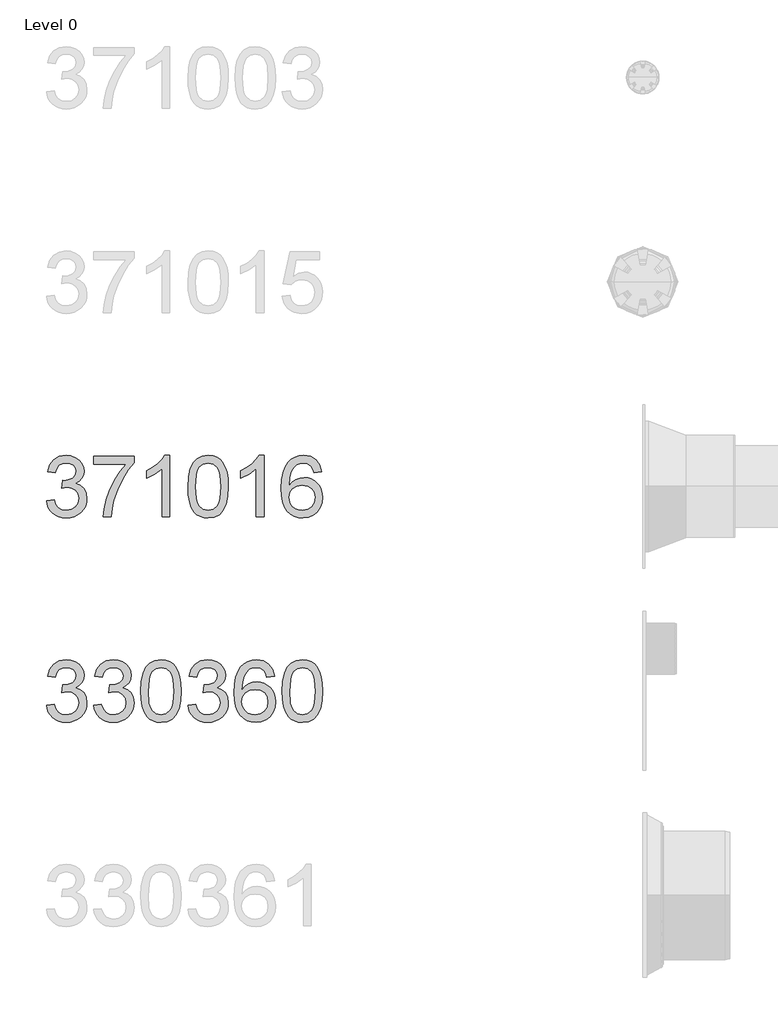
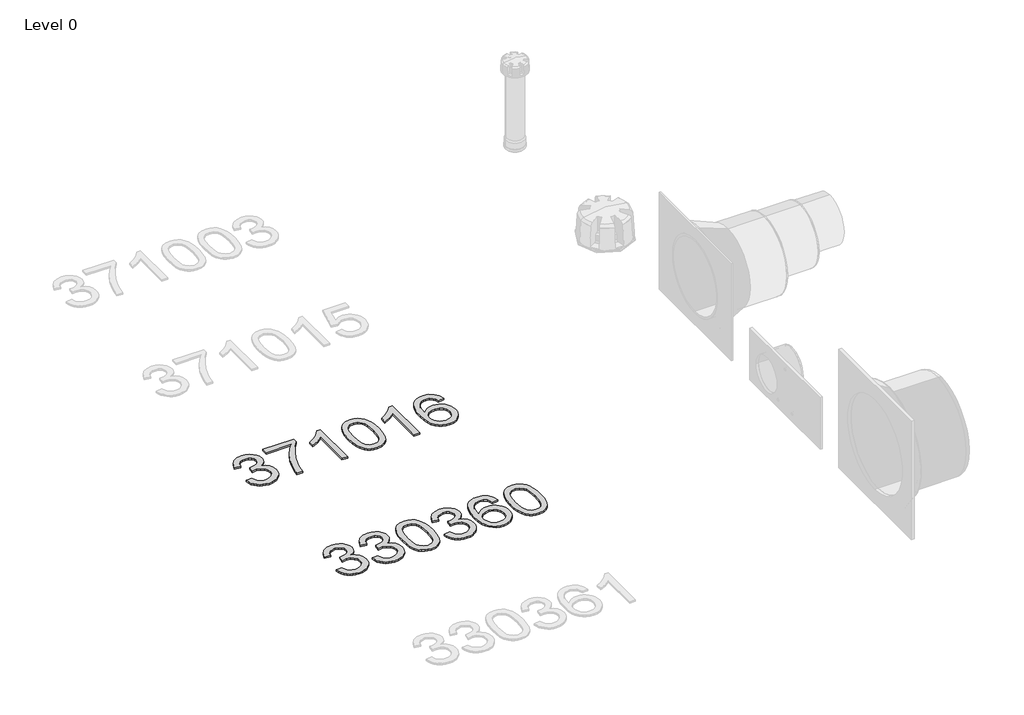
# One storey, part 4 of 25: 2 proxies.
"""IFC4 building model written with IfcOpenShell, lengths in millimetres."""

from ifc_helpers import new_model, si_unit, origin, origin_with_axes, place, context, project, spatial, polyline, outline, extrude, element, save

model = new_model("IFC4")

# Units and contexts
model_context = context("Model", 3, world=origin())
ifc_project = project(units=[si_unit("LENGTHUNIT", "METRE", prefix="MILLI")], contexts=[model_context])

# Site, building, storey
site = spatial("IfcSite", under=ifc_project)
building = spatial("IfcBuilding", under=site)
storey = spatial("IfcBuildingStorey", under=building, Name="Level 0", Elevation=0.0)

# Proxies
placement = place(None, origin())
element("IfcBuildingElementProxy", 1, Name="300mm Arial", ObjectType="300mm Arial", at=placement, inside=storey, context=model_context, shape_type="SweptSolid", body=[
    extrude(outline(polyline([(-3192.0538732, -8120.925676), (-3154.3827568, -8116.2167865), (-3145.9490621, -8139.8899929), (-3133.5974241, -8155.8744656), (-3116.7208376, -8164.979545), (-3094.7122972, -8168.0145714), (-3068.8869812, -8163.8391108), (-3048.947777, -8151.3127288), (-3036.2006659, -8132.6243235), (-3031.9516289, -8109.9627926), (-3036.1638777, -8088.4508929), (-3048.8006242, -8071.0040893), (-3067.930488, -8059.4433976), (-3091.6220885, -8055.5898337), (-3118.0360157, -8059.710112), (-3113.842161, -8022.0389957), (-3107.8088963, -8022.4804541), (-3085.2393359, -8019.7765215), (-3065.0610084, -8011.6647235), (-3050.8239752, -7997.942725), (-3046.0782975, -7978.4081911), (-3049.5179941, -7962.1386099), (-3059.8370841, -7948.9408433), (-3075.5824335, -7940.1944488), (-3095.3009084, -7937.278984), (-3115.0561716, -7940.22204), (-3131.2061912, -7949.0512079), (-3142.9968091, -7963.7664877), (-3149.6738673, -7984.3678794), (-3187.3449836, -7979.6589899), (-3176.2533415, -7945.8322404), (-3156.5164724, -7920.5771415), (-3129.513934, -7904.8501862), (-3096.6252836, -7899.6078677), (-3072.9428802, -7902.1922387), (-3051.1918572, -7909.9453518), (-3032.8529397, -7922.1774281), (-3019.4068528, -7938.198689), (-3011.1570991, -7956.6571681), (-3008.4071812, -7976.2008991), (-3011.0191433, -7994.4110579), (-3018.8550298, -8010.9289595), (-3031.8044761, -8025.0004458), (-3049.7571174, -8035.8713587), (-3026.1758815, -8045.3995024), (-3008.7014868, -8061.6230984), (-2997.8857561, -8083.6592299), (-2994.2805125, -8110.6249802), (-2996.0831343, -8129.7364498), (-3001.4909997, -8147.3396033), (-3010.5041085, -8163.4344406), (-3023.122461, -8178.0209617), (-3038.4953298, -8190.1242793), (-3055.771988, -8198.7695062), (-3074.9524356, -8203.9566423), (-3096.0366724, -8205.6856877), (-3115.0929598, -8204.2095612), (-3132.4569899, -8199.7811817), (-3148.1287629, -8192.4005492), (-3162.1082787, -8182.0676636), (-3173.8299188, -8169.3895304), (-3182.7280646, -8154.9731547), (-3188.802716, -8138.8185366), (-3192.0538732, -8120.925676)])), origin_with_axes(), (0.0, 0.0, 1.0), 10.0),
    extrude(outline(polyline([(-2961.3182858, -7941.9878736), (-2961.3182858, -7904.3167573), (-2763.5449252, -7904.3167573), (-2763.5449252, -7934.7773865), (-2791.7338831, -7970.452743), (-2819.6469294, -8015.82179), (-2844.267432, -8066.7458552), (-2862.5787583, -8119.0862661), (-2871.555079, -8158.2473044), (-2876.5582741, -8200.9767982), (-2914.2293904, -8200.9767982), (-2910.1550973, -8162.1468536), (-2899.2565932, -8115.9960573), (-2881.8281837, -8067.076949), (-2858.1641743, -8019.9420684), (-2830.5362365, -7977.3321363), (-2801.2160415, -7941.9878736), (-2961.3182858, -7941.9878736)])), origin_with_axes(), (0.0, 0.0, 1.0), 10.0),
    extrude(outline(polyline([(-2589.3160123, -8200.9767982), (-2626.9871286, -8200.9767982), (-2626.9871286, -7966.1209325), (-2662.6716821, -7991.5415783), (-2702.3293612, -8010.5610775), (-2702.3293612, -7974.9501003), (-2672.7424517, -7958.8552631), (-2647.1102737, -7939.7070052), (-2626.9043551, -7919.3447368), (-2613.5962239, -7899.6078677), (-2589.3160123, -7899.6078677), (-2589.3160123, -8200.9767982)])), origin_with_axes(), (0.0, 0.0, 1.0), 10.0),
    extrude(outline(polyline([(-2499.847111, -8052.7203541), (-2497.078799, -8004.4818275), (-2488.773863, -7966.0105679), (-2475.0150764, -7936.717964), (-2455.8852126, -7916.0154047), (-2431.246316, -7903.709752), (-2400.9604307, -7899.6078677), (-2377.7470768, -7902.0358889), (-2356.9617441, -7909.3199524), (-2339.5793198, -7921.1749497), (-2326.5746913, -7937.3157722), (-2316.752242, -7957.6044643), (-2308.9163555, -7981.9030701), (-2303.7844017, -8012.7591724), (-2302.0737504, -8052.7203541), (-2304.8144713, -8100.6829692), (-2313.0366339, -8139.0622584), (-2326.7126471, -8168.3824534), (-2345.8149197, -8189.1677861), (-2370.5089986, -8201.5562123), (-2400.9604307, -8205.6856877), (-2421.7089753, -8203.892263), (-2440.103075, -8198.5119888), (-2456.14273, -8189.5448652), (-2469.8279402, -8176.9908921), (-2482.9613275, -8154.2971715), (-2492.3423183, -8126.0208417), (-2497.9709129, -8092.1619025), (-2499.847111, -8052.7203541)]), holes=[polyline([(-2462.1759947, -8052.6467777), (-2457.7614108, -8111.9033701), (-2452.2431809, -8132.1713688), (-2444.517659, -8146.1991691), (-2424.799184, -8162.5607208), (-2400.9604307, -8168.0145714), (-2377.1216774, -8162.5423267), (-2357.4032025, -8146.1255927), (-2349.6776806, -8132.0747997), (-2344.1594507, -8111.8113996), (-2339.7448667, -8052.6467777), (-2344.0122979, -7994.7237576), (-2349.3465868, -7974.5224375), (-2356.8145913, -7960.1612441), (-2376.496278, -7942.9995491), (-2401.4018891, -7937.278984), (-2424.983125, -7942.3189674), (-2443.9290478, -7957.4389174), (-2451.9120871, -7973.0739022), (-2457.614258, -7994.1535405), (-2462.1759947, -8052.6467777)])]), origin_with_axes(), (0.0, 0.0, 1.0), 10.0),
    extrude(outline(polyline([(-2127.8448375, -8200.9767982), (-2165.5159538, -8200.9767982), (-2165.5159538, -7966.1209325), (-2201.2005073, -7991.5415783), (-2240.8581864, -8010.5610775), (-2240.8581864, -7974.9501003), (-2211.271277, -7958.8552631), (-2185.639099, -7939.7070052), (-2165.4331804, -7919.3447368), (-2152.1250492, -7899.6078677), (-2127.8448375, -7899.6078677), (-2127.8448375, -8200.9767982)])), origin_with_axes(), (0.0, 0.0, 1.0), 10.0),
    extrude(outline(polyline([(-1845.3114652, -7979.6589899), (-1882.9825815, -7984.3678794), (-1889.0526344, -7965.6978682), (-1897.2564029, -7952.950757), (-1914.3445216, -7941.1969273), (-1935.0010956, -7937.278984), (-1952.5122786, -7939.5598524), (-1968.993392, -7946.4024575), (-1983.1476518, -7960.8142347), (-1994.7083435, -7980.6522713), (-2002.5166388, -8008.7124704), (-2005.4137095, -8047.7907354), (-1990.3029566, -8030.1599908), (-1972.1939653, -8017.7347764), (-1952.0984114, -8010.3679394), (-1931.0279701, -8007.9123271), (-1912.9281759, -8009.5907887), (-1896.2263333, -8014.6261735), (-1880.9224423, -8023.0184815), (-1867.0165029, -8034.7677128), (-1855.4604098, -8049.1748914), (-1847.2060575, -8065.5410417), (-1842.2534461, -8083.8661635), (-1840.6025757, -8104.150257), (-1843.7111785, -8131.1252043), (-1853.0369871, -8156.131983), (-1867.8074492, -8177.34038), (-1887.2500127, -8192.9201825), (-1910.4817607, -8202.4943114), (-1936.6197764, -8205.6856877), (-1959.076673, -8203.5703662), (-1979.3584672, -8197.2244018), (-1997.4651592, -8186.6477945), (-2013.3967488, -8171.8405442), (-2026.3852825, -8152.1772515), (-2035.6628066, -8127.0325171), (-2041.229321, -8096.406341), (-2043.0848258, -8060.2987232), (-2041.0246866, -8019.8179082), (-2034.8442691, -7985.2691903), (-2024.5435733, -7956.6525696), (-2010.1225991, -7933.9680461), (-1994.4922128, -7918.9354681), (-1976.369426, -7908.1979123), (-1955.7542387, -7901.7553789), (-1932.6466509, -7899.6078677), (-1899.5924536, -7904.9237626), (-1873.123344, -7920.8714471), (-1854.5820915, -7946.2001224), (-1845.3114652, -7979.6589899)]), holes=[polyline([(-2005.4137095, -8103.5616459), (-2003.2340087, -8120.2542914), (-1996.6949062, -8136.1927788), (-1986.5413632, -8149.8963831), (-1973.5183405, -8159.8843793), (-1957.8005823, -8165.9820234), (-1939.5628324, -8168.0145714), (-1914.7032066, -8163.8023226), (-1895.1594756, -8151.165576), (-1882.4951379, -8131.2999483), (-1878.273692, -8105.4010558), (-1882.4399556, -8080.54143), (-1894.9387464, -8061.5863102), (-1914.8135712, -8049.5841601), (-1941.1079368, -8045.5834434), (-1965.9307744, -8049.5841601), (-1986.688516, -8061.5863102), (-2000.7324111, -8080.0815775), (-2005.4137095, -8103.5616459)])]), origin_with_axes(), (0.0, 0.0, 1.0), 10.0),
])
element("IfcBuildingElementProxy", 2, Name="300mm Arial", ObjectType="300mm Arial", at=placement, inside=storey, context=model_context, shape_type="SweptSolid", body=[
    extrude(outline(polyline([(-3192.0538732, -9120.925676), (-3154.3827568, -9116.2167865), (-3145.9490621, -9139.8899929), (-3133.5974241, -9155.8744656), (-3116.7208376, -9164.979545), (-3094.7122972, -9168.0145714), (-3068.8869812, -9163.8391108), (-3048.947777, -9151.3127288), (-3036.2006659, -9132.6243235), (-3031.9516289, -9109.9627926), (-3036.1638777, -9088.4508929), (-3048.8006242, -9071.0040893), (-3067.930488, -9059.4433976), (-3091.6220885, -9055.5898337), (-3118.0360157, -9059.710112), (-3113.842161, -9022.0389957), (-3107.8088963, -9022.4804541), (-3085.2393359, -9019.7765215), (-3065.0610084, -9011.6647235), (-3050.8239752, -8997.942725), (-3046.0782975, -8978.4081911), (-3049.5179941, -8962.1386099), (-3059.8370841, -8948.9408433), (-3075.5824335, -8940.1944488), (-3095.3009084, -8937.278984), (-3115.0561716, -8940.22204), (-3131.2061912, -8949.0512079), (-3142.9968091, -8963.7664877), (-3149.6738673, -8984.3678794), (-3187.3449836, -8979.6589899), (-3176.2533415, -8945.8322404), (-3156.5164724, -8920.5771415), (-3129.513934, -8904.8501862), (-3096.6252836, -8899.6078677), (-3072.9428802, -8902.1922387), (-3051.1918572, -8909.9453518), (-3032.8529397, -8922.1774281), (-3019.4068528, -8938.198689), (-3011.1570991, -8956.6571681), (-3008.4071812, -8976.2008991), (-3011.0191433, -8994.4110579), (-3018.8550298, -9010.9289595), (-3031.8044761, -9025.0004458), (-3049.7571174, -9035.8713587), (-3026.1758815, -9045.3995024), (-3008.7014868, -9061.6230984), (-2997.8857561, -9083.6592299), (-2994.2805125, -9110.6249802), (-2996.0831343, -9129.7364498), (-3001.4909997, -9147.3396033), (-3010.5041085, -9163.4344406), (-3023.122461, -9178.0209617), (-3038.4953298, -9190.1242793), (-3055.771988, -9198.7695062), (-3074.9524356, -9203.9566423), (-3096.0366724, -9205.6856877), (-3115.0929598, -9204.2095612), (-3132.4569899, -9199.7811817), (-3148.1287629, -9192.4005492), (-3162.1082787, -9182.0676636), (-3173.8299188, -9169.3895304), (-3182.7280646, -9154.9731547), (-3188.802716, -9138.8185366), (-3192.0538732, -9120.925676)])), origin_with_axes(), (0.0, 0.0, 1.0), 10.0),
    extrude(outline(polyline([(-2961.3182858, -9120.925676), (-2923.6471695, -9116.2167865), (-2915.2134747, -9139.8899929), (-2902.8618367, -9155.8744656), (-2885.9852502, -9164.979545), (-2863.9767099, -9168.0145714), (-2838.1513938, -9163.8391108), (-2818.2121897, -9151.3127288), (-2805.4650785, -9132.6243235), (-2801.2160415, -9109.9627926), (-2805.4282903, -9088.4508929), (-2818.0650369, -9071.0040893), (-2837.1949006, -9059.4433976), (-2860.8865011, -9055.5898337), (-2887.3004284, -9059.710112), (-2883.1065736, -9022.0389957), (-2877.0733089, -9022.4804541), (-2854.5037485, -9019.7765215), (-2834.325421, -9011.6647235), (-2820.0883878, -8997.942725), (-2815.3427101, -8978.4081911), (-2818.7824067, -8962.1386099), (-2829.1014967, -8948.9408433), (-2844.8468461, -8940.1944488), (-2864.565321, -8937.278984), (-2884.3205842, -8940.22204), (-2900.4706038, -8949.0512079), (-2912.2612217, -8963.7664877), (-2918.9382799, -8984.3678794), (-2956.6093962, -8979.6589899), (-2945.5177541, -8945.8322404), (-2925.780885, -8920.5771415), (-2898.7783466, -8904.8501862), (-2865.8896962, -8899.6078677), (-2842.2072928, -8902.1922387), (-2820.4562698, -8909.9453518), (-2802.1173524, -8922.1774281), (-2788.6712654, -8938.198689), (-2780.4215117, -8956.6571681), (-2777.6715938, -8976.2008991), (-2780.283556, -8994.4110579), (-2788.1194425, -9010.9289595), (-2801.0688887, -9025.0004458), (-2819.02153, -9035.8713587), (-2795.4402942, -9045.3995024), (-2777.9658994, -9061.6230984), (-2767.1501687, -9083.6592299), (-2763.5449252, -9110.6249802), (-2765.3475469, -9129.7364498), (-2770.7554123, -9147.3396033), (-2779.7685212, -9163.4344406), (-2792.3868736, -9178.0209617), (-2807.7597425, -9190.1242793), (-2825.0364007, -9198.7695062), (-2844.2168482, -9203.9566423), (-2865.301085, -9205.6856877), (-2884.3573724, -9204.2095612), (-2901.7214026, -9199.7811817), (-2917.3931756, -9192.4005492), (-2931.3726914, -9182.0676636), (-2943.0943314, -9169.3895304), (-2951.9924772, -9154.9731547), (-2958.0671286, -9138.8185366), (-2961.3182858, -9120.925676)])), origin_with_axes(), (0.0, 0.0, 1.0), 10.0),
    extrude(outline(polyline([(-2730.5826984, -9052.7203541), (-2727.8143864, -9004.4818275), (-2719.5094504, -8966.0105679), (-2705.7506637, -8936.717964), (-2686.6208, -8916.0154047), (-2661.9819034, -8903.709752), (-2631.6960181, -8899.6078677), (-2608.4826642, -8902.0358889), (-2587.6973315, -8909.3199524), (-2570.3149072, -8921.1749497), (-2557.3102787, -8937.3157722), (-2547.4878294, -8957.6044643), (-2539.6519429, -8981.9030701), (-2534.5199891, -9012.7591724), (-2532.8093378, -9052.7203541), (-2535.5500587, -9100.6829692), (-2543.7722213, -9139.0622584), (-2557.4482344, -9168.3824534), (-2576.550507, -9189.1677861), (-2601.244586, -9201.5562123), (-2631.6960181, -9205.6856877), (-2652.4445626, -9203.892263), (-2670.8386624, -9198.5119888), (-2686.8783174, -9189.5448652), (-2700.5635276, -9176.9908921), (-2713.6969148, -9154.2971715), (-2723.0779057, -9126.0208417), (-2728.7065002, -9092.1619025), (-2730.5826984, -9052.7203541)]), holes=[polyline([(-2692.9115821, -9052.6467777), (-2688.4969982, -9111.9033701), (-2682.9787682, -9132.1713688), (-2675.2532463, -9146.1991691), (-2655.5347714, -9162.5607208), (-2631.6960181, -9168.0145714), (-2607.8572648, -9162.5423267), (-2588.1387899, -9146.1255927), (-2580.413268, -9132.0747997), (-2574.895038, -9111.8113996), (-2570.4804541, -9052.6467777), (-2574.7478852, -8994.7237576), (-2580.0821742, -8974.5224375), (-2587.5501787, -8960.1612441), (-2607.2318654, -8942.9995491), (-2632.1374765, -8937.278984), (-2655.7187124, -8942.3189674), (-2674.6646351, -8957.4389174), (-2682.6476744, -8973.0739022), (-2688.3498454, -8994.1535405), (-2692.9115821, -9052.6467777)])]), origin_with_axes(), (0.0, 0.0, 1.0), 10.0),
    extrude(outline(polyline([(-2499.847111, -9120.925676), (-2462.1759947, -9116.2167865), (-2453.7423, -9139.8899929), (-2441.390662, -9155.8744656), (-2424.5140755, -9164.979545), (-2402.5055351, -9168.0145714), (-2376.680219, -9163.8391108), (-2356.7410149, -9151.3127288), (-2343.9939038, -9132.6243235), (-2339.7448667, -9109.9627926), (-2343.9571156, -9088.4508929), (-2356.5938621, -9071.0040893), (-2375.7237259, -9059.4433976), (-2399.4153263, -9055.5898337), (-2425.8292536, -9059.710112), (-2421.6353989, -9022.0389957), (-2415.6021341, -9022.4804541), (-2393.0325737, -9019.7765215), (-2372.8542463, -9011.6647235), (-2358.6172131, -8997.942725), (-2353.8715353, -8978.4081911), (-2357.311232, -8962.1386099), (-2367.630322, -8948.9408433), (-2383.3756714, -8940.1944488), (-2403.0941463, -8937.278984), (-2422.8494094, -8940.22204), (-2438.999429, -8949.0512079), (-2450.790047, -8963.7664877), (-2457.4671052, -8984.3678794), (-2495.1382215, -8979.6589899), (-2484.0465793, -8945.8322404), (-2464.3097103, -8920.5771415), (-2437.3071719, -8904.8501862), (-2404.4185215, -8899.6078677), (-2380.736118, -8902.1922387), (-2358.9850951, -8909.9453518), (-2340.6461776, -8922.1774281), (-2327.2000907, -8938.198689), (-2318.950337, -8956.6571681), (-2316.200419, -8976.2008991), (-2318.8123812, -8994.4110579), (-2326.6482677, -9010.9289595), (-2339.5977139, -9025.0004458), (-2357.5503553, -9035.8713587), (-2333.9691194, -9045.3995024), (-2316.4947246, -9061.6230984), (-2305.678994, -9083.6592299), (-2302.0737504, -9110.6249802), (-2303.8763722, -9129.7364498), (-2309.2842375, -9147.3396033), (-2318.2973464, -9163.4344406), (-2330.9156988, -9178.0209617), (-2346.2885677, -9190.1242793), (-2363.5652259, -9198.7695062), (-2382.7456734, -9203.9566423), (-2403.8299103, -9205.6856877), (-2422.8861976, -9204.2095612), (-2440.2502278, -9199.7811817), (-2455.9220008, -9192.4005492), (-2469.9015166, -9182.0676636), (-2481.6231567, -9169.3895304), (-2490.5213025, -9154.9731547), (-2496.5959539, -9138.8185366), (-2499.847111, -9120.925676)])), origin_with_axes(), (0.0, 0.0, 1.0), 10.0),
    extrude(outline(polyline([(-2076.0470526, -8979.6589899), (-2113.7181689, -8984.3678794), (-2119.7882218, -8965.6978682), (-2127.9919903, -8952.950757), (-2145.080109, -8941.1969273), (-2165.736683, -8937.278984), (-2183.247866, -8939.5598524), (-2199.7289794, -8946.4024575), (-2213.8832391, -8960.8142347), (-2225.4439308, -8980.6522713), (-2233.2522262, -9008.7124704), (-2236.1492969, -9047.7907354), (-2221.0385439, -9030.1599908), (-2202.9295527, -9017.7347764), (-2182.8339987, -9010.3679394), (-2161.7635575, -9007.9123271), (-2143.6637633, -9009.5907887), (-2126.9619207, -9014.6261735), (-2111.6580297, -9023.0184815), (-2097.7520903, -9034.7677128), (-2086.1959971, -9049.1748914), (-2077.9416449, -9065.5410417), (-2072.9890335, -9083.8661635), (-2071.338163, -9104.150257), (-2074.4467659, -9131.1252043), (-2083.7725745, -9156.131983), (-2098.5430366, -9177.34038), (-2117.9856, -9192.9201825), (-2141.217348, -9202.4943114), (-2167.3553638, -9205.6856877), (-2189.8122603, -9203.5703662), (-2210.0940546, -9197.2244018), (-2228.2007465, -9186.6477945), (-2244.1323362, -9171.8405442), (-2257.1208699, -9152.1772515), (-2266.3983939, -9127.0325171), (-2271.9649084, -9096.406341), (-2273.8204132, -9060.2987232), (-2271.760274, -9019.8179082), (-2265.5798565, -8985.2691903), (-2255.2791606, -8956.6525696), (-2240.8581864, -8933.9680461), (-2225.2278002, -8918.9354681), (-2207.1050134, -8908.1979123), (-2186.4898261, -8901.7553789), (-2163.3822382, -8899.6078677), (-2130.328041, -8904.9237626), (-2103.8589314, -8920.8714471), (-2085.3176789, -8946.2001224), (-2076.0470526, -8979.6589899)]), holes=[polyline([(-2236.1492969, -9103.5616459), (-2233.9695961, -9120.2542914), (-2227.4304936, -9136.1927788), (-2217.2769505, -9149.8963831), (-2204.2539279, -9159.8843793), (-2188.5361697, -9165.9820234), (-2170.2984198, -9168.0145714), (-2145.4387939, -9163.8023226), (-2125.8950629, -9151.165576), (-2113.2307252, -9131.2999483), (-2109.0092794, -9105.4010558), (-2113.175543, -9080.54143), (-2125.6743337, -9061.5863102), (-2145.5491585, -9049.5841601), (-2171.8435241, -9045.5834434), (-2196.6663618, -9049.5841601), (-2217.4241033, -9061.5863102), (-2231.4679985, -9080.0815775), (-2236.1492969, -9103.5616459)])]), origin_with_axes(), (0.0, 0.0, 1.0), 10.0),
    extrude(outline(polyline([(-2038.3759363, -9052.7203541), (-2035.6076243, -9004.4818275), (-2027.3026882, -8966.0105679), (-2013.5439016, -8936.717964), (-1994.4140379, -8916.0154047), (-1969.7751412, -8903.709752), (-1939.489256, -8899.6078677), (-1916.2759021, -8902.0358889), (-1895.4905694, -8909.3199524), (-1878.1081451, -8921.1749497), (-1865.1035166, -8937.3157722), (-1855.2810673, -8957.6044643), (-1847.4451808, -8981.9030701), (-1842.313227, -9012.7591724), (-1840.6025757, -9052.7203541), (-1843.3432965, -9100.6829692), (-1851.5654591, -9139.0622584), (-1865.2414723, -9168.3824534), (-1884.3437449, -9189.1677861), (-1909.0378238, -9201.5562123), (-1939.489256, -9205.6856877), (-1960.2378005, -9203.892263), (-1978.6319003, -9198.5119888), (-1994.6715553, -9189.5448652), (-2008.3567655, -9176.9908921), (-2021.4901527, -9154.2971715), (-2030.8711436, -9126.0208417), (-2036.4997381, -9092.1619025), (-2038.3759363, -9052.7203541)]), holes=[polyline([(-2000.70482, -9052.6467777), (-1996.290236, -9111.9033701), (-1990.7720061, -9132.1713688), (-1983.0464842, -9146.1991691), (-1963.3280093, -9162.5607208), (-1939.489256, -9168.0145714), (-1915.6505027, -9162.5423267), (-1895.9320277, -9146.1255927), (-1888.2065058, -9132.0747997), (-1882.6882759, -9111.8113996), (-1878.273692, -9052.6467777), (-1882.5411231, -8994.7237576), (-1887.8754121, -8974.5224375), (-1895.3434166, -8960.1612441), (-1915.0251033, -8942.9995491), (-1939.9307144, -8937.278984), (-1963.5119503, -8942.3189674), (-1982.457873, -8957.4389174), (-1990.4409123, -8973.0739022), (-1996.1430832, -8994.1535405), (-2000.70482, -9052.6467777)])]), origin_with_axes(), (0.0, 0.0, 1.0), 10.0),
])

save(model, "model.ifc")
